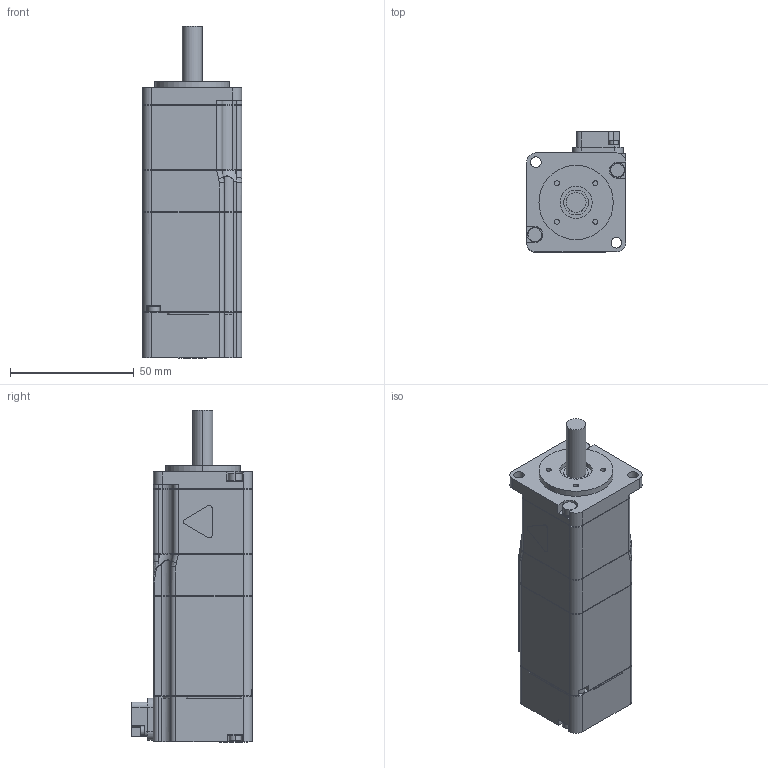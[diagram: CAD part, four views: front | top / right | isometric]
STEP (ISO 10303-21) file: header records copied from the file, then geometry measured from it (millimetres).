
FILE_DESCRIPTION (( 'STEP AP203' ), '1' );
FILE_NAME ('sgm7a_01a_a2c.STEP', '2015-08-31T23:58:41', ( '匠エンジニアリング山之内' ), ( 'TAKUMI-Engniaring' ), 'SwSTEP 2.0', 'SolidWorks 2006303', '' );
FILE_SCHEMA (( 'CONFIG_CONTROL_DESIGN' ));
Length unit declared in the file: millimetre
Products named in the file (1): sgm7a_01a_a2c
Bounding box: 40.1 x 48.8 x 134.1 mm (x, y, z)
Volume: 166132.1 mm3; surface area: 22935.4 mm2
Topology: 1 solids, 1 shells, 435 faces, 1151 edges, 753 vertices
Faces by surface type: plane 232, cylinder 186, bspline 17
Entity records: 14399 total; most frequent: CARTESIAN_POINT 3354, DIRECTION 2312, ORIENTED_EDGE 2302, EDGE_CURVE 1151, AXIS2_PLACEMENT_3D 798, VERTEX_POINT 753, LINE 716, VECTOR 716
